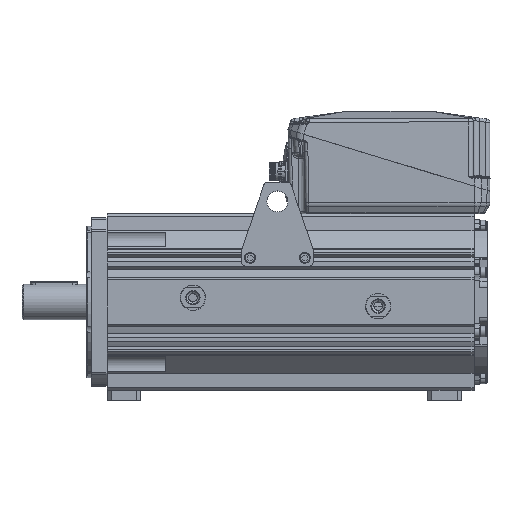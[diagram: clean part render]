
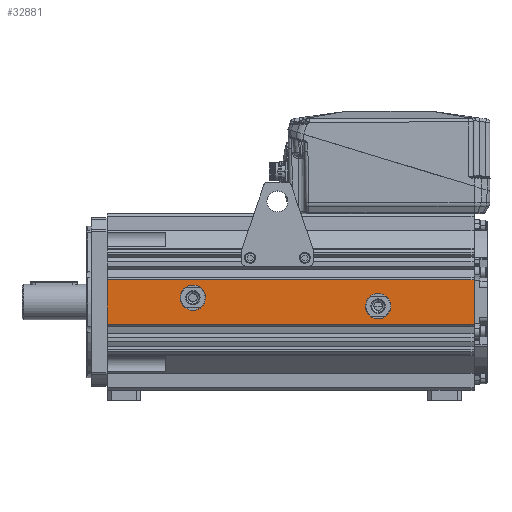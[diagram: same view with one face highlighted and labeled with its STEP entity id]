
A CAD part, top view. The second image highlights one B-rep face of the part: STEP entity #32881.
In plain terms, the highlighted planar face has unit normal (0, 0, 1).
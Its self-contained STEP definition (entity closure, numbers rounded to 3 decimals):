
#30341=DIRECTION('',(1.,0.,0.));
#30342=VECTOR('',#30341,436.);
#30343=CARTESIAN_POINT('',(101.,-26.5,105.));
#30344=LINE('',#30343,#30342);
#30345=DIRECTION('',(0.,1.,0.));
#30346=VECTOR('',#30345,53.);
#30347=CARTESIAN_POINT('',(101.,-26.5,105.));
#30348=LINE('',#30347,#30346);
#30349=DIRECTION('',(1.,0.,0.));
#30350=VECTOR('',#30349,436.);
#30351=CARTESIAN_POINT('',(101.,26.5,105.));
#30352=LINE('',#30351,#30350);
#30353=DIRECTION('',(0.,-1.,0.));
#30354=VECTOR('',#30353,53.);
#30355=CARTESIAN_POINT('',(537.,26.5,105.));
#30356=LINE('',#30355,#30354);
#30389=CARTESIAN_POINT('',(203.,5.,105.));
#30390=DIRECTION('',(0.,0.,-1.));
#30391=DIRECTION('',(1.,0.,0.));
#30392=AXIS2_PLACEMENT_3D('',#30389,#30390,#30391);
#30394=CARTESIAN_POINT('',(203.,5.,105.));
#30395=DIRECTION('',(0.,0.,-1.));
#30396=DIRECTION('',(-1.,0.,0.));
#30397=AXIS2_PLACEMENT_3D('',#30394,#30395,#30396);
#30399=CARTESIAN_POINT('',(423.,-5.,105.));
#30400=DIRECTION('',(0.,0.,-1.));
#30401=DIRECTION('',(1.,0.,0.));
#30402=AXIS2_PLACEMENT_3D('',#30399,#30400,#30401);
#30404=CARTESIAN_POINT('',(423.,-5.,105.));
#30405=DIRECTION('',(0.,0.,-1.));
#30406=DIRECTION('',(-1.,0.,0.));
#30407=AXIS2_PLACEMENT_3D('',#30404,#30405,#30406);
#31272=CARTESIAN_POINT('',(101.,26.5,105.));
#31273=VERTEX_POINT('',#31272);
#31280=CARTESIAN_POINT('',(537.,26.5,105.));
#31281=VERTEX_POINT('',#31280);
#31322=CARTESIAN_POINT('',(101.,-26.5,105.));
#31323=VERTEX_POINT('',#31322);
#31330=CARTESIAN_POINT('',(537.,-26.5,105.));
#31331=VERTEX_POINT('',#31330);
#31540=CARTESIAN_POINT('',(210.5,5.,105.));
#31541=CARTESIAN_POINT('',(195.5,5.,105.));
#31542=VERTEX_POINT('',#31540);
#31543=VERTEX_POINT('',#31541);
#31548=CARTESIAN_POINT('',(430.5,-5.,105.));
#31550=VERTEX_POINT('',#31548);
#31552=CARTESIAN_POINT('',(415.5,-5.,105.));
#31554=VERTEX_POINT('',#31552);
#32856=CARTESIAN_POINT('',(101.,62.,105.));
#32857=DIRECTION('',(0.,0.,1.));
#32858=DIRECTION('',(0.,-1.,0.));
#32859=AXIS2_PLACEMENT_3D('',#32856,#32857,#32858);
#32860=PLANE('',#32859);
#32862=ORIENTED_EDGE('',*,*,#32861,.F.);
#32863=ORIENTED_EDGE('',*,*,#31741,.T.);
#32865=ORIENTED_EDGE('',*,*,#32864,.T.);
#32866=ORIENTED_EDGE('',*,*,#32017,.T.);
#32867=EDGE_LOOP('',(#32862,#32863,#32865,#32866));
#32868=FACE_OUTER_BOUND('',#32867,.F.);
#32870=ORIENTED_EDGE('',*,*,#32869,.F.);
#32872=ORIENTED_EDGE('',*,*,#32871,.F.);
#32873=EDGE_LOOP('',(#32870,#32872));
#32874=FACE_BOUND('',#32873,.F.);
#32876=ORIENTED_EDGE('',*,*,#32875,.F.);
#32878=ORIENTED_EDGE('',*,*,#32877,.F.);
#32879=EDGE_LOOP('',(#32876,#32878));
#32880=FACE_BOUND('',#32879,.F.);
#32881=ADVANCED_FACE('',(#32868,#32874,#32880),#32860,.T.);
#30393=CIRCLE('',#30392,7.5);
#30398=CIRCLE('',#30397,7.5);
#30403=CIRCLE('',#30402,7.5);
#30408=CIRCLE('',#30407,7.5);
#31741=EDGE_CURVE('',#31323,#31273,#30348,.T.);
#32017=EDGE_CURVE('',#31281,#31331,#30356,.T.);
#32861=EDGE_CURVE('',#31323,#31331,#30344,.T.);
#32864=EDGE_CURVE('',#31273,#31281,#30352,.T.);
#32869=EDGE_CURVE('',#31542,#31543,#30393,.T.);
#32871=EDGE_CURVE('',#31543,#31542,#30398,.T.);
#32875=EDGE_CURVE('',#31550,#31554,#30403,.T.);
#32877=EDGE_CURVE('',#31554,#31550,#30408,.T.);
